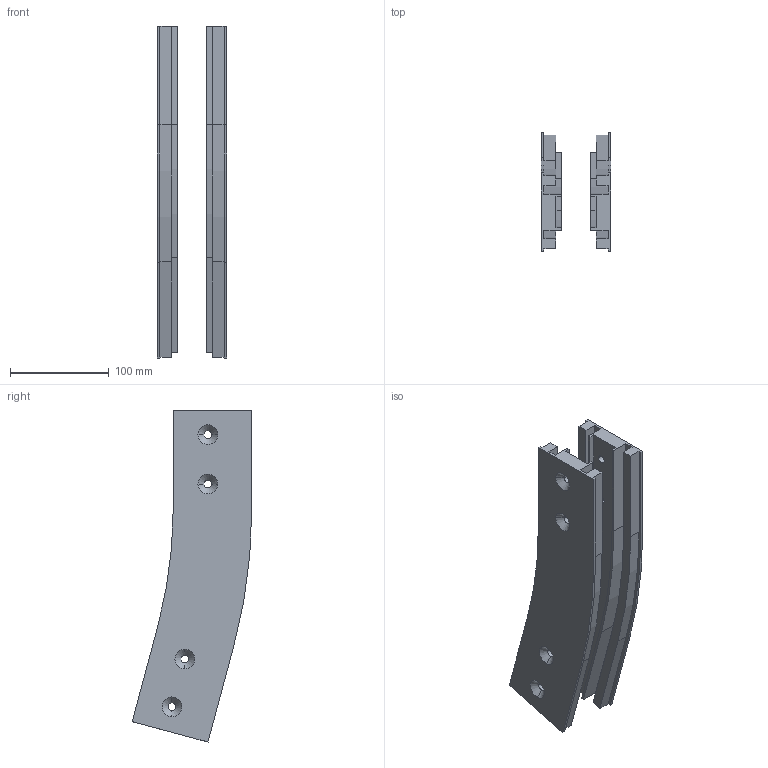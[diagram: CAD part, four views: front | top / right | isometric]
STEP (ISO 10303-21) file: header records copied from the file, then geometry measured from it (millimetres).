
FILE_DESCRIPTION (( 'STEP AP203' ), '1' );
FILE_NAME ('R1CV500-15.STEP', '2008-11-20T10:20:55', ( 'faber' ), ( '' ), 'SwSTEP 2.0', 'SolidWorks 2008', '' );
FILE_SCHEMA (( 'CONFIG_CONTROL_DESIGN' ));
Length unit declared in the file: millimetre
Products named in the file (1): R1CV500-15
Bounding box: 70 x 121.16 x 336.3 mm (x, y, z)
Volume: 592234.4 mm3; surface area: 176079.4 mm2
Topology: 2 solids, 2 shells, 116 faces, 326 edges, 214 vertices
Faces by surface type: plane 64, cylinder 36, cone 16
Entity records: 3851 total; most frequent: CARTESIAN_POINT 657, DIRECTION 654, ORIENTED_EDGE 652, EDGE_CURVE 326, VECTOR 232, LINE 232, VERTEX_POINT 214, AXIS2_PLACEMENT_3D 211
